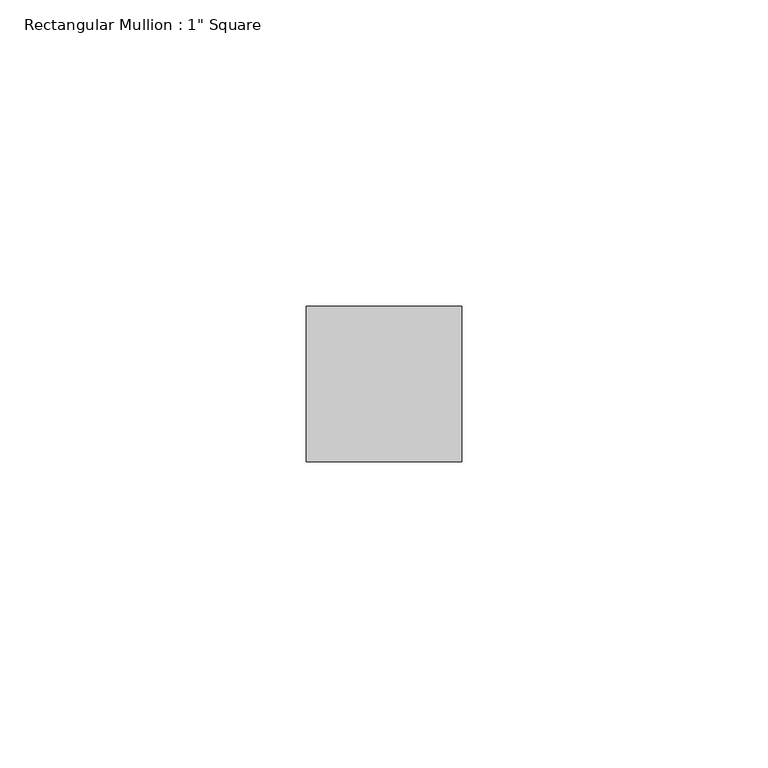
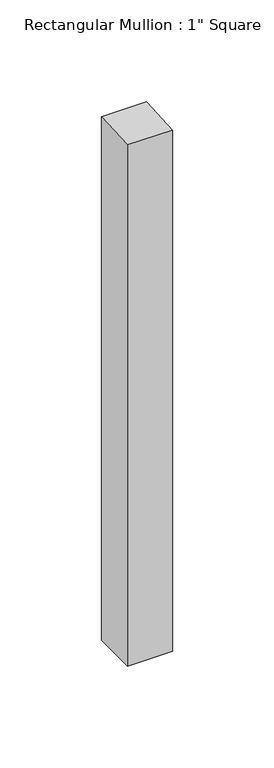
"""IFC4 building model written with IfcOpenShell, lengths in millimetres: member geometry."""

from ifc_helpers import new_model, si_unit, origin, place, context, project, spatial, faceted_brep, source, transform, mapped, element, save


def member_fbc4017a(model_context):
    return source(origin(), model_context, "Body", "Brep", [
        faceted_brep([(0.0, 12.7, -313.1171736), (0.0, -12.7, -313.1171736), (-25.4, -12.7, -313.1171736), (-25.4, 12.7, -313.1171736), (-25.4, 12.7, 0.7406756), (0.0, 12.7, 0.7481204), (-25.4, -12.7, -0.7555651), (0.0, -12.7, -0.7481204)], [[[0, 1, 2, 3]], [[4, 5, 0, 3]], [[6, 4, 3, 2]], [[7, 6, 2, 1]], [[5, 7, 1, 0]], [[5, 4, 6, 7]]]),
    ])


if __name__ == "__main__":
    model = new_model("IFC4")
    model_context = context("Model", 3, world=origin())
    ifc_project = project(units=[si_unit("LENGTHUNIT", "METRE", prefix="MILLI")], contexts=[model_context])
    site = spatial("IfcSite", under=ifc_project)
    building = spatial("IfcBuilding", under=site)
    placement = place(None, origin())
    member_shape = member_fbc4017a(model_context)
    element("IfcMember", 1, ObjectType="Rectangular Mullion : 1\" Square", at=placement, inside=building, context=model_context, shape_type="MappedRepresentation", body=[
        mapped(member_shape, transform((0.0, 0.0, 0.0), x_axis=(1.0, 0.0, 0.0), y_axis=(0.0, 1.0, 0.0), z_axis=(0.0, 0.0, 1.0))),
    ])
    save(model, "model.ifc")
